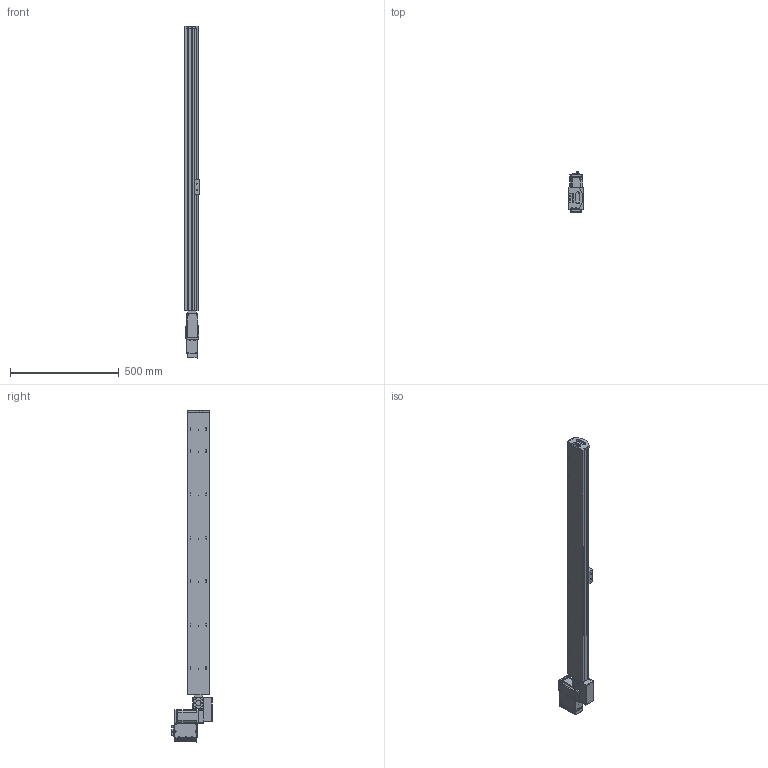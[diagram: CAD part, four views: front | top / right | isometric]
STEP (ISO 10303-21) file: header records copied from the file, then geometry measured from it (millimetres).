
FILE_DESCRIPTION (( 'STEP AP203' ), '1' );
FILE_NAME ('S10 TBN LH S1300.STEP', '2012-12-07T13:28:24', ( 'Conseil Régional Haute-Normandie' ), ( 'Conseil Régional Haute-Normandie' ), 'SwSTEP 2.0', 'SolidWorks 2010', '' );
FILE_SCHEMA (( 'CONFIG_CONTROL_DESIGN' ));
Length unit declared in the file: millimetre
Products named in the file (26): S10 TBN LH S1300; Assem1_7; BU41 Carte Alimentation P05_3; Colonnette_3; BU45 Carte d''axe A11_5; Moteur 60BLDC90A_3; plaque de bout s10_Default; Connecteur rond D12 4cts_5; Sub D 9cts 90_X2_00B_X0__3; Radiateur profil_X2_00E9_X0_ 100x25_3; Colonnette ronde_3; T_X2_00F4_X0_le lat_X2_00E9_X0_rale_5; Vis TF 3 torkx_1_1; cache t皻e axe_Default; cache t皻e_Default; Plaque racord_Default; renvoi LH_Default; axe 1300_Default; axe 1300; T_X2_00F4_X0_le contre le moteur_5; Connecteur rond D10 3cts_5; Couvercle_3; T_X2_00F4_X0_le fond_3; T_X2_00F4_X0_le Arri_X2_00E8_X0_re_5; embout; palette tbn
Assembly tree (48 placements, depth 3):
  S10 TBN LH S1300
    cache t皻e_Default
    palette tbn
    renvoi LH_Default
    cache t皻e axe_Default
    embout
    axe 1300_Default
      axe 1300
    Assem1_7
      Vis TF 3 torkx_1_1  x21
      Colonnette ronde_3
      Colonnette_3  x2
      BU45 Carte d''axe A11_5
      Connecteur rond D10 3cts_5  x2
      Radiateur profil_X2_00E9_X0_ 100x25_3
      BU41 Carte Alimentation P05_3
      Moteur 60BLDC90A_3
      T_X2_00F4_X0_le lat_X2_00E9_X0_rale_5  x2
      Connecteur rond D12 4cts_5
      T_X2_00F4_X0_le Arri_X2_00E8_X0_re_5
      T_X2_00F4_X0_le fond_3
      T_X2_00F4_X0_le contre le moteur_5
      Couvercle_3
      Sub D 9cts 90_X2_00B_X0__3
    Plaque racord_Default
    plaque de bout s10_Default
Bounding box: 66.75 x 186.1 x 1528.5 mm (x, y, z)
Volume: 7570916.6 mm3; surface area: 925466.1 mm2
Topology: 46 solids, 46 shells, 1942 faces, 4955 edges, 3230 vertices
Faces by surface type: cylinder 914, plane 867, cone 146, bspline 12, torus 3
Entity records: 44117 total; most frequent: CARTESIAN_POINT 7986, DIRECTION 7184, ORIENTED_EDGE 6542, EDGE_CURVE 3271, AXIS2_PLACEMENT_3D 2679, VERTEX_POINT 2146, VECTOR 1826, LINE 1826
